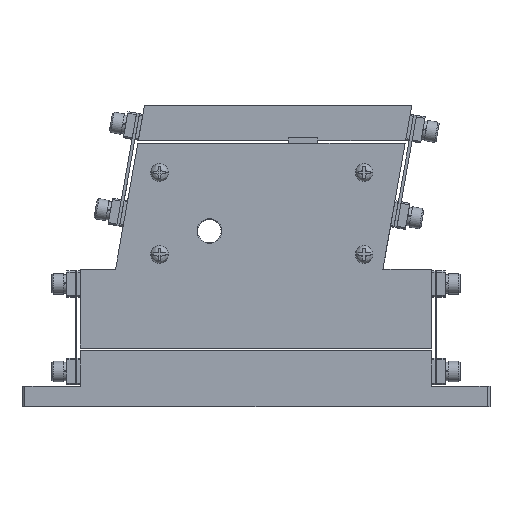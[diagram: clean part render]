
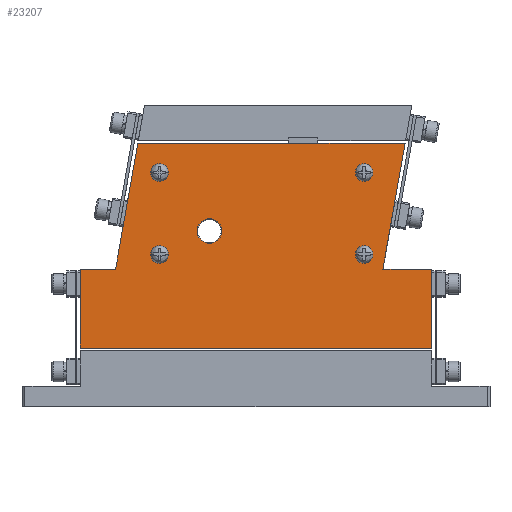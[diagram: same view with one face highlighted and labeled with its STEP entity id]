
A CAD part, top view. The second image highlights one B-rep face of the part: STEP entity #23207.
In plain terms, the highlighted planar face has unit normal (0, 0, 1).
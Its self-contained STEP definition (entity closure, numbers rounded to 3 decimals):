
#1168=DIRECTION('',(0.,-1.,0.));
#1169=VECTOR('',#1168,27.);
#1170=CARTESIAN_POINT('',(48.728,-48.5,19.5));
#1171=LINE('',#1170,#1169);
#6297=CARTESIAN_POINT('',(-27.196,-35.5,
19.5));
#6298=DIRECTION('',(0.,0.,1.));
#6299=DIRECTION('',(-1.,0.,0.));
#6300=AXIS2_PLACEMENT_3D('',#6297,#6298,#6299);
#6302=CARTESIAN_POINT('',(-27.196,-35.5,
19.5));
#6303=DIRECTION('',(0.,0.,1.));
#6304=DIRECTION('',(1.,0.,0.));
#6305=AXIS2_PLACEMENT_3D('',#6302,#6303,#6304);
#6307=DIRECTION('',(-0.174,-0.985,0.));
#6308=VECTOR('',#6307,43.663);
#6309=CARTESIAN_POINT('',(39.698,-5.5,19.5));
#6310=LINE('',#6309,#6308);
#6311=DIRECTION('',(1.,0.,0.));
#6312=VECTOR('',#6311,16.612);
#6313=CARTESIAN_POINT('',(32.116,-48.5,19.5));
#6314=LINE('',#6313,#6312);
#6315=DIRECTION('',(-1.,0.,0.));
#6316=VECTOR('',#6315,120.);
#6317=CARTESIAN_POINT('',(48.728,-75.5,19.5));
#6318=LINE('',#6317,#6316);
#6319=DIRECTION('',(0.,1.,0.));
#6320=VECTOR('',#6319,27.);
#6321=CARTESIAN_POINT('',(-71.272,-75.5,19.5));
#6322=LINE('',#6321,#6320);
#6323=DIRECTION('',(1.,0.,0.));
#6324=VECTOR('',#6323,12.);
#6325=CARTESIAN_POINT('',(-71.272,-48.5,19.5));
#6326=LINE('',#6325,#6324);
#6327=DIRECTION('',(0.174,0.985,0.));
#6328=VECTOR('',#6327,43.663);
#6329=CARTESIAN_POINT('',(-59.272,-48.5,19.5));
#6330=LINE('',#6329,#6328);
#6331=DIRECTION('',(1.,0.,0.));
#6332=VECTOR('',#6331,91.388);
#6333=CARTESIAN_POINT('',(-51.69,-5.5,19.5));
#6334=LINE('',#6333,#6332);
#6335=CARTESIAN_POINT('',(-44.272,-15.5,19.5));
#6336=DIRECTION('',(0.,0.,1.));
#6337=DIRECTION('',(-1.,0.,0.));
#6338=AXIS2_PLACEMENT_3D('',#6335,#6336,#6337);
#6340=CARTESIAN_POINT('',(-44.272,-15.5,19.5));
#6341=DIRECTION('',(0.,0.,1.));
#6342=DIRECTION('',(1.,0.,0.));
#6343=AXIS2_PLACEMENT_3D('',#6340,#6341,#6342);
#6345=CARTESIAN_POINT('',(25.728,-15.5,19.5));
#6346=DIRECTION('',(0.,0.,1.));
#6347=DIRECTION('',(-1.,0.,0.));
#6348=AXIS2_PLACEMENT_3D('',#6345,#6346,#6347);
#6350=CARTESIAN_POINT('',(25.728,-15.5,19.5));
#6351=DIRECTION('',(0.,0.,1.));
#6352=DIRECTION('',(1.,0.,0.));
#6353=AXIS2_PLACEMENT_3D('',#6350,#6351,#6352);
#6355=CARTESIAN_POINT('',(-44.272,-43.5,19.5));
#6356=DIRECTION('',(0.,0.,1.));
#6357=DIRECTION('',(-1.,0.,0.));
#6358=AXIS2_PLACEMENT_3D('',#6355,#6356,#6357);
#6360=CARTESIAN_POINT('',(-44.272,-43.5,19.5));
#6361=DIRECTION('',(0.,0.,1.));
#6362=DIRECTION('',(1.,0.,0.));
#6363=AXIS2_PLACEMENT_3D('',#6360,#6361,#6362);
#6365=CARTESIAN_POINT('',(25.728,-43.5,19.5));
#6366=DIRECTION('',(0.,0.,1.));
#6367=DIRECTION('',(-1.,0.,0.));
#6368=AXIS2_PLACEMENT_3D('',#6365,#6366,#6367);
#6370=CARTESIAN_POINT('',(25.728,-43.5,19.5));
#6371=DIRECTION('',(0.,0.,1.));
#6372=DIRECTION('',(1.,0.,0.));
#6373=AXIS2_PLACEMENT_3D('',#6370,#6371,#6372);
#12022=CARTESIAN_POINT('',(-51.69,-5.5,19.5));
#12023=CARTESIAN_POINT('',(39.698,-5.5,19.5));
#12024=VERTEX_POINT('',#12022);
#12025=VERTEX_POINT('',#12023);
#12026=CARTESIAN_POINT('',(-31.396,-35.5,19.5));
#12027=CARTESIAN_POINT('',(-22.996,-35.5,19.5));
#12028=VERTEX_POINT('',#12026);
#12029=VERTEX_POINT('',#12027);
#13622=CARTESIAN_POINT('',(-71.272,-48.5,19.5));
#13624=VERTEX_POINT('',#13622);
#13627=CARTESIAN_POINT('',(48.728,-48.5,19.5));
#13629=VERTEX_POINT('',#13627);
#13651=CARTESIAN_POINT('',(-71.272,-75.5,19.5));
#13653=VERTEX_POINT('',#13651);
#13654=CARTESIAN_POINT('',(48.728,-75.5,19.5));
#13655=VERTEX_POINT('',#13654);
#14042=CARTESIAN_POINT('',(-59.272,-48.5,19.5));
#14044=VERTEX_POINT('',#14042);
#14047=CARTESIAN_POINT('',(32.116,-48.5,19.5));
#14049=VERTEX_POINT('',#14047);
#14809=CARTESIAN_POINT('',(-47.272,-15.5,19.5));
#14810=CARTESIAN_POINT('',(-41.272,-15.5,19.5));
#14811=VERTEX_POINT('',#14809);
#14812=VERTEX_POINT('',#14810);
#14813=CARTESIAN_POINT('',(22.728,-15.5,19.5));
#14814=CARTESIAN_POINT('',(28.728,-15.5,19.5));
#14815=VERTEX_POINT('',#14813);
#14816=VERTEX_POINT('',#14814);
#14825=CARTESIAN_POINT('',(-47.272,-43.5,19.5));
#14826=CARTESIAN_POINT('',(-41.272,-43.5,19.5));
#14827=VERTEX_POINT('',#14825);
#14828=VERTEX_POINT('',#14826);
#14829=CARTESIAN_POINT('',(22.728,-43.5,19.5));
#14830=CARTESIAN_POINT('',(28.728,-43.5,19.5));
#14831=VERTEX_POINT('',#14829);
#14832=VERTEX_POINT('',#14830);
#23160=CARTESIAN_POINT('',(-9.787,-27.,19.5));
#23161=DIRECTION('',(0.,0.,1.));
#23162=DIRECTION('',(1.,0.,0.));
#23163=AXIS2_PLACEMENT_3D('',#23160,#23161,#23162);
#23164=PLANE('',#23163);
#23165=ORIENTED_EDGE('',*,*,#17004,.T.);
#23166=ORIENTED_EDGE('',*,*,#16409,.T.);
#23167=ORIENTED_EDGE('',*,*,#16362,.T.);
#23169=ORIENTED_EDGE('',*,*,#23168,.T.);
#23171=ORIENTED_EDGE('',*,*,#23170,.T.);
#23172=ORIENTED_EDGE('',*,*,#16390,.T.);
#23173=ORIENTED_EDGE('',*,*,#16435,.T.);
#23174=ORIENTED_EDGE('',*,*,#16987,.T.);
#23175=EDGE_LOOP('',(#23165,#23166,#23167,#23169,#23171,#23172,#23173,#23174));
#23176=FACE_OUTER_BOUND('',#23175,.F.);
#23178=ORIENTED_EDGE('',*,*,#23177,.T.);
#23180=ORIENTED_EDGE('',*,*,#23179,.T.);
#23181=EDGE_LOOP('',(#23178,#23180));
#23182=FACE_BOUND('',#23181,.F.);
#23184=ORIENTED_EDGE('',*,*,#23183,.T.);
#23186=ORIENTED_EDGE('',*,*,#23185,.T.);
#23187=EDGE_LOOP('',(#23184,#23186));
#23188=FACE_BOUND('',#23187,.F.);
#23190=ORIENTED_EDGE('',*,*,#23189,.T.);
#23192=ORIENTED_EDGE('',*,*,#23191,.T.);
#23193=EDGE_LOOP('',(#23190,#23192));
#23194=FACE_BOUND('',#23193,.F.);
#23196=ORIENTED_EDGE('',*,*,#23195,.T.);
#23198=ORIENTED_EDGE('',*,*,#23197,.T.);
#23199=EDGE_LOOP('',(#23196,#23198));
#23200=FACE_BOUND('',#23199,.F.);
#23202=ORIENTED_EDGE('',*,*,#23201,.T.);
#23204=ORIENTED_EDGE('',*,*,#23203,.T.);
#23205=EDGE_LOOP('',(#23202,#23204));
#23206=FACE_BOUND('',#23205,.F.);
#6301=CIRCLE('',#6300,4.2);
#6306=CIRCLE('',#6305,4.2);
#6339=CIRCLE('',#6338,3.);
#6344=CIRCLE('',#6343,3.);
#6349=CIRCLE('',#6348,3.);
#6354=CIRCLE('',#6353,3.);
#6359=CIRCLE('',#6358,3.);
#6364=CIRCLE('',#6363,3.);
#6369=CIRCLE('',#6368,3.);
#6374=CIRCLE('',#6373,3.);
#16362=EDGE_CURVE('',#13629,#13655,#1171,.T.);
#16390=EDGE_CURVE('',#13624,#14044,#6326,.T.);
#16409=EDGE_CURVE('',#14049,#13629,#6314,.T.);
#16435=EDGE_CURVE('',#14044,#12024,#6330,.T.);
#16987=EDGE_CURVE('',#12024,#12025,#6334,.T.);
#17004=EDGE_CURVE('',#12025,#14049,#6310,.T.);
#23168=EDGE_CURVE('',#13655,#13653,#6318,.T.);
#23170=EDGE_CURVE('',#13653,#13624,#6322,.T.);
#23177=EDGE_CURVE('',#12028,#12029,#6301,.T.);
#23179=EDGE_CURVE('',#12029,#12028,#6306,.T.);
#23183=EDGE_CURVE('',#14811,#14812,#6339,.T.);
#23185=EDGE_CURVE('',#14812,#14811,#6344,.T.);
#23189=EDGE_CURVE('',#14815,#14816,#6349,.T.);
#23191=EDGE_CURVE('',#14816,#14815,#6354,.T.);
#23195=EDGE_CURVE('',#14827,#14828,#6359,.T.);
#23197=EDGE_CURVE('',#14828,#14827,#6364,.T.);
#23201=EDGE_CURVE('',#14831,#14832,#6369,.T.);
#23203=EDGE_CURVE('',#14832,#14831,#6374,.T.);
#23207=ADVANCED_FACE('',(#23176,#23182,#23188,#23194,#23200,#23206),#23164,.T.);
